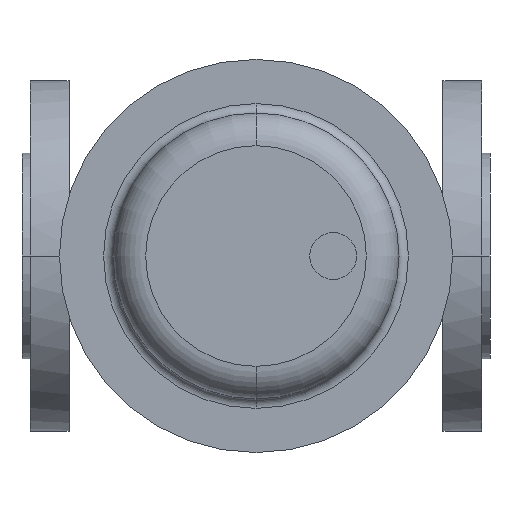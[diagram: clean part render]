
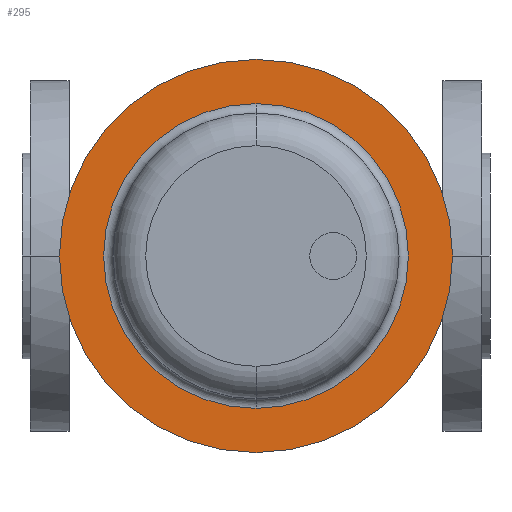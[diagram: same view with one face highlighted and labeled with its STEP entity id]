
A CAD part, front view. The second image highlights one B-rep face of the part: STEP entity #295.
In plain terms, the highlighted planar face has unit normal (0, -1, 0).
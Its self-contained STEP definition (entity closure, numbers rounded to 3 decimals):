
#295 = ADVANCED_FACE( '', ( #689, #690 ), #691, .T. );
#689 = FACE_OUTER_BOUND( '', #1100, .T. );
#690 = FACE_BOUND( '', #1101, .T. );
#691 = PLANE( '', #1102 );
#1100 = EDGE_LOOP( '', ( #2469, #2470 ) );
#1101 = EDGE_LOOP( '', ( #2471, #2472, #2473 ) );
#1102 = AXIS2_PLACEMENT_3D( '', #2474, #2475, #2476 );
#2469 = ORIENTED_EDGE( '', *, *, #2964, .F. );
#2470 = ORIENTED_EDGE( '', *, *, #2993, .F. );
#2471 = ORIENTED_EDGE( '', *, *, #2991, .T. );
#2472 = ORIENTED_EDGE( '', *, *, #2971, .T. );
#2473 = ORIENTED_EDGE( '', *, *, #2992, .T. );
#2474 = CARTESIAN_POINT( '', ( 174.563, -444.5, 0. ) );
#2475 = DIRECTION( '', ( 0., -1., 0. ) );
#2476 = DIRECTION( '', ( -1., 0., 0. ) );
#2964 = EDGE_CURVE( '', #3664, #3667, #3668, .T. );
#2971 = EDGE_CURVE( '', #3673, #3679, #3681, .T. );
#2991 = EDGE_CURVE( '', #3713, #3673, #3714, .T. );
#2992 = EDGE_CURVE( '', #3679, #3713, #3715, .T. );
#2993 = EDGE_CURVE( '', #3667, #3664, #3716, .T. );
#3664 = VERTEX_POINT( '', #4995 );
#3667 = VERTEX_POINT( '', #4999 );
#3668 = CIRCLE( '', #5000, 84. );
#3673 = VERTEX_POINT( '', #5006 );
#3679 = VERTEX_POINT( '', #5012 );
#3681 = CIRCLE( '', #5014, 65.125 );
#3713 = VERTEX_POINT( '', #5050 );
#3714 = CIRCLE( '', #5051, 65.125 );
#3715 = CIRCLE( '', #5052, 65.125 );
#3716 = CIRCLE( '', #5053, 84. );
#4995 = CARTESIAN_POINT( '', ( 184., -444.5, 0. ) );
#4999 = CARTESIAN_POINT( '', ( 16., -444.5, 0. ) );
#5000 = AXIS2_PLACEMENT_3D( '', #5947, #5948, #5949 );
#5006 = CARTESIAN_POINT( '', ( 100., -444.5, -65.125 ) );
#5012 = CARTESIAN_POINT( '', ( 100., -444.5, 65.125 ) );
#5014 = AXIS2_PLACEMENT_3D( '', #5966, #5967, #5968 );
#5050 = CARTESIAN_POINT( '', ( 165.125, -444.5, 0. ) );
#5051 = AXIS2_PLACEMENT_3D( '', #6018, #6019, #6020 );
#5052 = AXIS2_PLACEMENT_3D( '', #6021, #6022, #6023 );
#5053 = AXIS2_PLACEMENT_3D( '', #6024, #6025, #6026 );
#5947 = CARTESIAN_POINT( '', ( 100., -444.5, 0. ) );
#5948 = DIRECTION( '', ( 0., 1., 0. ) );
#5949 = DIRECTION( '', ( 1., 0., 0. ) );
#5966 = CARTESIAN_POINT( '', ( 100., -444.5, 0. ) );
#5967 = DIRECTION( '', ( 0., 1., 0. ) );
#5968 = DIRECTION( '', ( 1., 0., 0. ) );
#6018 = CARTESIAN_POINT( '', ( 100., -444.5, 0. ) );
#6019 = DIRECTION( '', ( 0., 1., 0. ) );
#6020 = DIRECTION( '', ( 1., 0., 0. ) );
#6021 = CARTESIAN_POINT( '', ( 100., -444.5, 0. ) );
#6022 = DIRECTION( '', ( 0., 1., 0. ) );
#6023 = DIRECTION( '', ( 1., 0., 0. ) );
#6024 = CARTESIAN_POINT( '', ( 100., -444.5, 0. ) );
#6025 = DIRECTION( '', ( 0., 1., 0. ) );
#6026 = DIRECTION( '', ( 1., 0., 0. ) );
